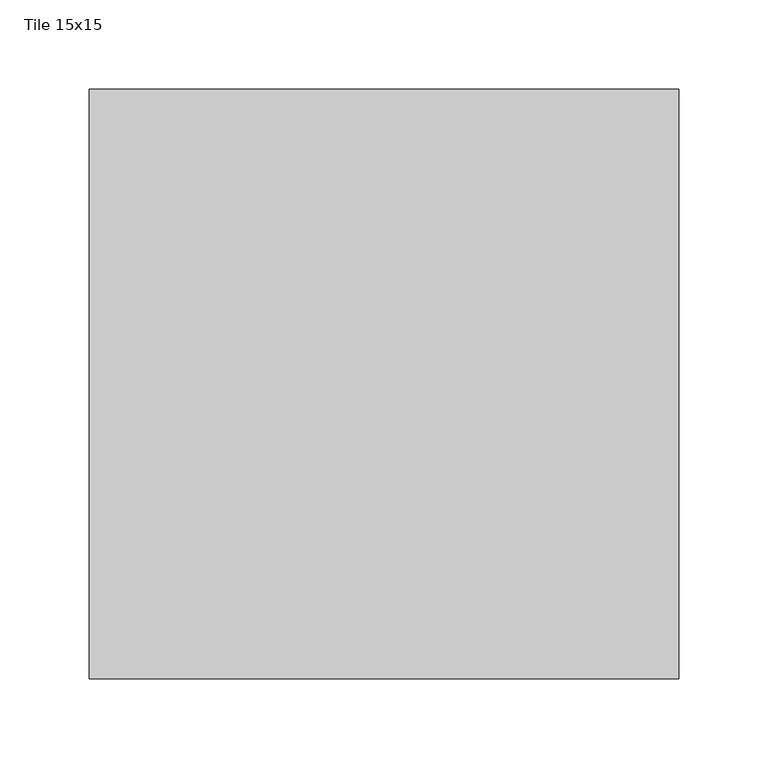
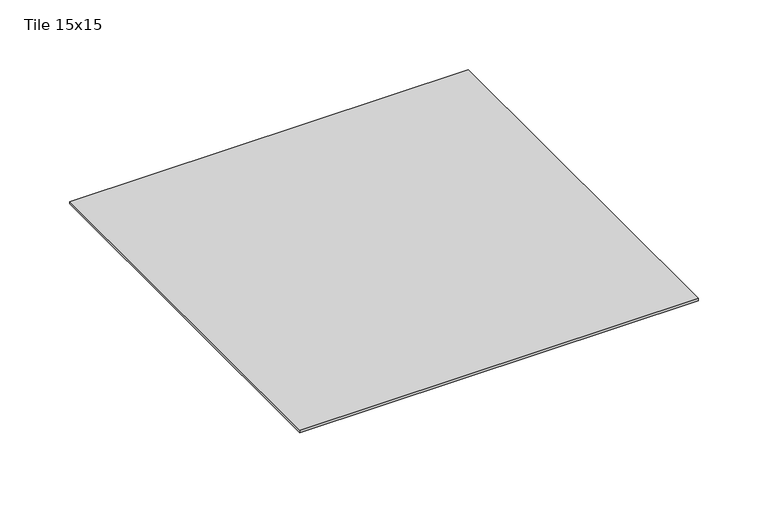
"""IFC4 building model written with IfcOpenShell, lengths in millimetres: sanitary terminal geometry, Z_DO_NOT_USE_NLRS_PF_52_UN_Aqua Jewels Quattro Complete_Easydrain : Tile 15x15."""

import ifcopenshell
import ifcopenshell.guid

model = None  # the IFC model being written
_history = None  # IfcOwnerHistory: only IFC2X3 demands one
_inside = {}  # id of a spatial element -> (the spatial element, [elements in it])
_under = {}  # id of a project, library or spatial element -> (it, [spatial elements below it])
_declared = {}  # id of a project -> (the project, [libraries it declares])
_typed = {}  # id of a type object -> (the type object, [elements of that type])
_made_of = {}  # id of a material, layer set ... -> (it, [elements and type objects made of it])


def new_model(schema):
    """Start an empty IFC model of exactly this schema.

    Asked for "IFC4X3", IfcOpenShell would pick the latest addendum, in which some entities
    have other attributes; the version numbers below select the first issue.
    IFC2X3 requires an IfcOwnerHistory on every rooted entity: one is made here for all.
    """
    global model, _history
    if schema == "IFC4X3":
        model = ifcopenshell.file(schema_version=(4, 3, 0, 0))
    else:
        model = ifcopenshell.file(schema=schema)
    _inside.clear()
    _under.clear()
    _declared.clear()
    _typed.clear()
    _made_of.clear()
    _history = None
    if model.schema == "IFC2X3":
        org = make("IfcOrganization", Name="unknown")
        user = make(
            "IfcPersonAndOrganization",
            ThePerson=make("IfcPerson", FamilyName="unknown"),
            TheOrganization=org,
        )
        app = make(
            "IfcApplication",
            ApplicationDeveloper=org,
            Version="unknown",
            ApplicationFullName="unknown",
            ApplicationIdentifier="unknown",
        )
        _history = make(
            "IfcOwnerHistory",
            OwningUser=user,
            OwningApplication=app,
            ChangeAction="ADDED",
            CreationDate=0,
        )
    return model


def make(cls, **values):
    """One entity of the class cls with the attributes given. An attribute that is None is left unset."""
    return model.create_entity(
        cls, **{name: value for name, value in values.items() if value is not None}
    )


def rooted(cls, **values):
    """An entity with a GlobalId (a new one), such as an element, a storey or a relation."""
    return make(cls, GlobalId=ifcopenshell.guid.new(), OwnerHistory=_history, **values)


def si_unit(unit_type, name, prefix=None):
    """IfcSIUnit, for example si_unit("LENGTHUNIT", "METRE", prefix="MILLI")."""
    return make("IfcSIUnit", UnitType=unit_type, Prefix=prefix, Name=name)


def assignment(units):
    """IfcUnitAssignment: the units of a project."""
    return None if units is None else make("IfcUnitAssignment", Units=units)


def point(xyz):
    """IfcCartesianPoint."""
    return None if xyz is None else make("IfcCartesianPoint", Coordinates=xyz)


def direction(xyz):
    """IfcDirection."""
    return None if xyz is None else make("IfcDirection", DirectionRatios=xyz)


def frame(location, z_axis=None, x_axis=None):
    """IfcAxis2Placement3D, a coordinate frame: its origin and axes. An axis left out is left unset."""
    return make(
        "IfcAxis2Placement3D",
        Location=point(location),
        Axis=direction(z_axis),
        RefDirection=direction(x_axis),
    )


def origin():
    """The frame at (0, 0, 0) with its axes left unset."""
    return frame((0.0, 0.0, 0.0))


def place(relative_to, where):
    """IfcLocalPlacement: puts the frame where relative to a parent placement (None: the world)."""
    return make(
        "IfcLocalPlacement", PlacementRelTo=relative_to, RelativePlacement=where
    )


def context(
    kind, dimensions, precision=None, world=None, true_north=None, identifier=None
):
    """IfcGeometricRepresentationContext, for example the 3D "Model" context."""
    return make(
        "IfcGeometricRepresentationContext",
        ContextIdentifier=identifier,
        ContextType=kind,
        CoordinateSpaceDimension=dimensions,
        Precision=precision,
        WorldCoordinateSystem=world,
        TrueNorth=true_north,
    )


def project(units=None, contexts=None):
    """IfcProject with its units and contexts."""
    return rooted(
        "IfcProject",
        Name="project",
        RepresentationContexts=contexts,
        UnitsInContext=assignment(units),
    )


def spatial(cls, under=None, at=None, **own):
    """A site, building, storey or space (cls), placed at a placement, below another one or the project."""
    s = rooted(cls, ObjectPlacement=at, **own)
    if under is not None:
        _under.setdefault(under.id(), (under, []))[1].append(s)
    return s


def polyline(points):
    """IfcPolyline through the points."""
    return make("IfcPolyline", Points=[point(p) for p in points])


def outline(outer, holes=None, kind="AREA"):
    """IfcArbitraryClosedProfileDef: a profile drawn as a closed curve; with holes, ...WithVoids."""
    if holes is None:
        return make("IfcArbitraryClosedProfileDef", ProfileType=kind, OuterCurve=outer)
    return make(
        "IfcArbitraryProfileDefWithVoids",
        ProfileType=kind,
        OuterCurve=outer,
        InnerCurves=holes,
    )


def extrude(swept, where, along, depth):
    """IfcExtrudedAreaSolid: the profile swept, set in the frame where, extruded along a direction by depth."""
    return make(
        "IfcExtrudedAreaSolid",
        SweptArea=swept,
        Position=where,
        ExtrudedDirection=direction(along),
        Depth=depth,
    )


def shape(context_of_items, identifier, shape_type, items):
    """IfcShapeRepresentation: the items that make up one representation, for example the "Body"."""
    return make(
        "IfcShapeRepresentation",
        ContextOfItems=context_of_items,
        RepresentationIdentifier=identifier,
        RepresentationType=shape_type,
        Items=items,
    )


def source(mapping_origin, context_of_items, identifier, shape_type, items):
    """IfcRepresentationMap: a shape defined once, which mapped items show again and again."""
    return make(
        "IfcRepresentationMap",
        MappingOrigin=mapping_origin,
        MappedRepresentation=shape(context_of_items, identifier, shape_type, items),
    )


def transform(
    local_origin,
    x_axis=None,
    y_axis=None,
    z_axis=None,
    scale=None,
    scale2=None,
    scale3=None,
    uniform=True,
):
    """IfcCartesianTransformationOperator3D, or its non-uniform kind. x_axis, y_axis, z_axis: its Axis1, 2, 3."""
    if uniform:
        return make(
            "IfcCartesianTransformationOperator3D",
            Axis1=direction(x_axis),
            Axis2=direction(y_axis),
            LocalOrigin=point(local_origin),
            Scale=scale,
            Axis3=direction(z_axis),
        )
    return make(
        "IfcCartesianTransformationOperator3DnonUniform",
        Axis1=direction(x_axis),
        Axis2=direction(y_axis),
        LocalOrigin=point(local_origin),
        Scale=scale,
        Axis3=direction(z_axis),
        Scale2=scale2,
        Scale3=scale3,
    )


def mapped(mapping_source, mapping_target):
    """IfcMappedItem: shows the shape of a source again, moved by a transform."""
    return make(
        "IfcMappedItem", MappingSource=mapping_source, MappingTarget=mapping_target
    )


def made_of(thing, what):
    """Note that an element or type object is made of a material, layer set ...; save() writes the relation."""
    if what is not None:
        _made_of.setdefault(what.id(), (what, []))[1].append(thing)
    return thing


def element(
    cls,
    number,
    at=None,
    inside=None,
    cuts=None,
    type_object=None,
    material=None,
    context=None,
    identifier="Body",
    shape_type=None,
    held_by="IfcProductDefinitionShape",
    body=None,
    shapes=None,
    **own,
):
    """One element of the class cls, such as IfcWall. Its Tag is "e" and its number.

    at: its placement. inside: the storey or other place that contains it. cuts: it is an
    opening in that element (IfcRelVoidsElement). A single representation is given by context,
    identifier, shape_type and body (its items); several are given by shapes. held_by: the class
    of the entity that holds the representations. save() writes the other relations.
    """
    e = rooted(cls, Tag="e%d" % number, ObjectPlacement=at, **own)
    if body is not None:
        shapes = [shape(context, identifier, shape_type, body)]
    if shapes is not None:
        e.Representation = make(held_by, Representations=shapes)
    if inside is not None:
        _inside.setdefault(inside.id(), (inside, []))[1].append(e)
    if cuts is not None:
        rooted(
            "IfcRelVoidsElement", RelatingBuildingElement=cuts, RelatedOpeningElement=e
        )
    if type_object is not None:
        _typed.setdefault(type_object.id(), (type_object, []))[1].append(e)
    return made_of(e, material)


def aggregate(whole, parts):
    """IfcRelAggregates: a whole, such as a stair, and the parts it consists of."""
    return rooted("IfcRelAggregates", RelatingObject=whole, RelatedObjects=parts)


def save(model, path):
    """Write the relations noted so far, then the file.

    IfcRelAggregates (storeys below a building ...), IfcRelContainedInSpatialStructure (elements
    in a storey), IfcRelDefinesByType, IfcRelAssociatesMaterial and IfcRelDeclares: one each for
    every whole, place, type object, material and project.
    """
    for whole, parts in _under.values():
        aggregate(whole, parts)
    for where, things in _inside.values():
        rooted(
            "IfcRelContainedInSpatialStructure",
            RelatedElements=things,
            RelatingStructure=where,
        )
    for kind, things in _typed.values():
        rooted("IfcRelDefinesByType", RelatedObjects=things, RelatingType=kind)
    for what, things in _made_of.values():
        rooted("IfcRelAssociatesMaterial", RelatedObjects=things, RelatingMaterial=what)
    for by, libraries in _declared.values():
        rooted("IfcRelDeclares", RelatingContext=by, RelatedDefinitions=libraries)
    model.write(path)


def tile_15x15_625d1f21(model_context):
    return source(origin(), model_context, "Body", "SweptSolid", [
        extrude(outline(polyline([(170.0, 155.0), (170.0, -175.0), (-160.0, -175.0), (-160.0, 155.0), (170.0, 155.0)])), frame((0.0, 0.0, -6.0), z_axis=(0.0, 0.0, 1.0), x_axis=(1.0, 0.0, 0.0)), (0.0, 0.0, 1.0), 2.0),
        extrude(outline(polyline([(80.0, 65.0), (80.0, -85.0), (-70.0, -85.0), (-70.0, 65.0), (80.0, 65.0)])), frame((0.0, 0.0, -25.0), z_axis=(0.0, 0.0, 1.0), x_axis=(1.0, 0.0, 0.0)), (0.0, 0.0, 1.0), 20.0),
        extrude(outline(polyline([(110.0, 95.0), (110.0, -115.0), (-100.0, -115.0), (-100.0, 95.0), (110.0, 95.0)])), frame((0.0, 0.0, -7.0), z_axis=(0.0, 0.0, 1.0), x_axis=(1.0, 0.0, 0.0)), (0.0, 0.0, 1.0), 2.0),
    ])


if __name__ == "__main__":
    model = new_model("IFC4")
    model_context = context("Model", 3, world=origin())
    ifc_project = project(units=[si_unit("LENGTHUNIT", "METRE", prefix="MILLI")], contexts=[model_context])
    site = spatial("IfcSite", under=ifc_project)
    building = spatial("IfcBuilding", under=site)
    placement = place(None, origin())
    tile_15x15_shape = tile_15x15_625d1f21(model_context)
    element("IfcSanitaryTerminal", 1, ObjectType="Z_DO_NOT_USE_NLRS_PF_52_UN_Aqua Jewels Quattro Complete_Easydrain : Tile 15x15", at=placement, inside=building, context=model_context, shape_type="MappedRepresentation", body=[
        mapped(tile_15x15_shape, transform((0.0, 0.0, 0.0), x_axis=(1.0, 0.0, 0.0), y_axis=(0.0, 1.0, 0.0), z_axis=(0.0, 0.0, 1.0))),
    ])
    save(model, "model.ifc")
